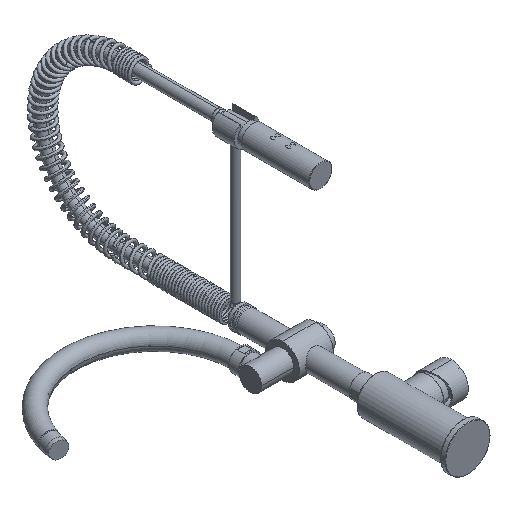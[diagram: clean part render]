
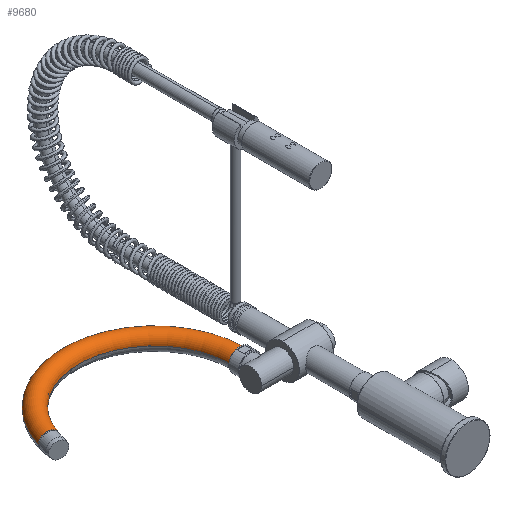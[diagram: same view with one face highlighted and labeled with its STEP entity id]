
A CAD part, isometric view. The second image highlights one B-rep face of the part: STEP entity #9680.
In plain terms, the highlighted toroidal (fillet/blend) face has major radius 112.5 mm and minor radius 12 mm.
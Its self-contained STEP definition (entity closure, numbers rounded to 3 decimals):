
#9243=CARTESIAN_POINT('',(-257.242,276.844,0.));
#9259=CARTESIAN_POINT('',(-280.564,282.61,0.));
#9261=CARTESIAN_POINT('',(-161.,247.9,0.));
#9262=DIRECTION('',(0.,0.,-1.));
#9263=DIRECTION('',(-0.958,0.288,0.));
#9264=AXIS2_PLACEMENT_3D('',#9261,#9262,#9263);
#9266=CARTESIAN_POINT('',(-280.564,282.61,0.));
#9267=CARTESIAN_POINT('',(-280.564,282.61,
0.912));
#9268=CARTESIAN_POINT('',(-280.367,282.561,2.684));
#9269=CARTESIAN_POINT('',(-279.499,282.346,5.25));
#9270=CARTESIAN_POINT('',(-278.099,282.,7.542));
#9271=CARTESIAN_POINT('',(-276.237,281.54,9.459));
#9272=CARTESIAN_POINT('',(-274.008,280.989,10.902));
#9273=CARTESIAN_POINT('',(-271.522,280.374,11.798));
#9274=CARTESIAN_POINT('',(-268.904,279.727,12.101));
#9275=CARTESIAN_POINT('',(-266.286,279.08,11.798));
#9276=CARTESIAN_POINT('',(-263.799,278.465,10.901));
#9277=CARTESIAN_POINT('',(-261.569,277.914,9.459));
#9278=CARTESIAN_POINT('',(-259.707,277.453,7.541));
#9279=CARTESIAN_POINT('',(-258.307,277.107,5.249));
#9280=CARTESIAN_POINT('',(-257.438,276.893,2.683));
#9281=CARTESIAN_POINT('',(-257.242,276.844,
0.911));
#9282=CARTESIAN_POINT('',(-257.242,276.844,0.));
#9284=CARTESIAN_POINT('',(-161.,247.9,0.));
#9285=DIRECTION('',(0.,0.,-1.));
#9286=DIRECTION('',(-0.96,0.279,0.));
#9287=AXIS2_PLACEMENT_3D('',#9284,#9285,#9286);
#9294=CARTESIAN_POINT('',(-48.5,247.9,0.));
#9295=DIRECTION('',(0.,-1.,0.));
#9296=DIRECTION('',(1.,0.,0.));
#9297=AXIS2_PLACEMENT_3D('',#9294,#9295,#9296);
#9549=CARTESIAN_POINT('',(-60.5,247.9,0.));
#9550=CARTESIAN_POINT('',(-36.5,247.9,0.));
#9551=VERTEX_POINT('',#9549);
#9552=VERTEX_POINT('',#9550);
#9577=VERTEX_POINT('',#9243);
#9578=VERTEX_POINT('',#9259);
#9668=CARTESIAN_POINT('',(-161.,247.9,0.));
#9669=DIRECTION('',(0.,0.,-1.));
#9670=DIRECTION('',(0.971,-0.24,0.));
#9671=AXIS2_PLACEMENT_3D('',#9668,#9669,#9670);
#9672=TOROIDAL_SURFACE('',#9671,112.5,12.);
#9673=ORIENTED_EDGE('',*,*,#9644,.F.);
#9674=ORIENTED_EDGE('',*,*,#9663,.T.);
#9676=ORIENTED_EDGE('',*,*,#9675,.T.);
#9677=ORIENTED_EDGE('',*,*,#9659,.F.);
#9678=EDGE_LOOP('',(#9673,#9674,#9676,#9677));
#9679=FACE_OUTER_BOUND('',#9678,.F.);
#9680=ADVANCED_FACE('',(#9679),#9672,.T.);
#9265=CIRCLE('',#9264,100.5);
#9283=B_SPLINE_CURVE_WITH_KNOTS('',3,(#9266,#9267,#9268,#9269,#9270,#9271,#9272,
#9273,#9274,#9275,#9276,#9277,#9278,#9279,#9280,#9281,#9282),.UNSPECIFIED.,.F.,
.F.,(4,1,1,1,1,1,1,1,1,1,1,1,1,1,4),(0.,0.071,0.143,
0.214,0.286,0.357,0.429,0.5,
0.571,0.643,0.714,0.786,
0.857,0.929,1.),.UNSPECIFIED.);
#9288=CIRCLE('',#9287,124.5);
#9298=CIRCLE('',#9297,12.);
#9644=EDGE_CURVE('',#9578,#9577,#9283,.T.);
#9659=EDGE_CURVE('',#9577,#9551,#9265,.T.);
#9663=EDGE_CURVE('',#9578,#9552,#9288,.T.);
#9675=EDGE_CURVE('',#9552,#9551,#9298,.T.);
